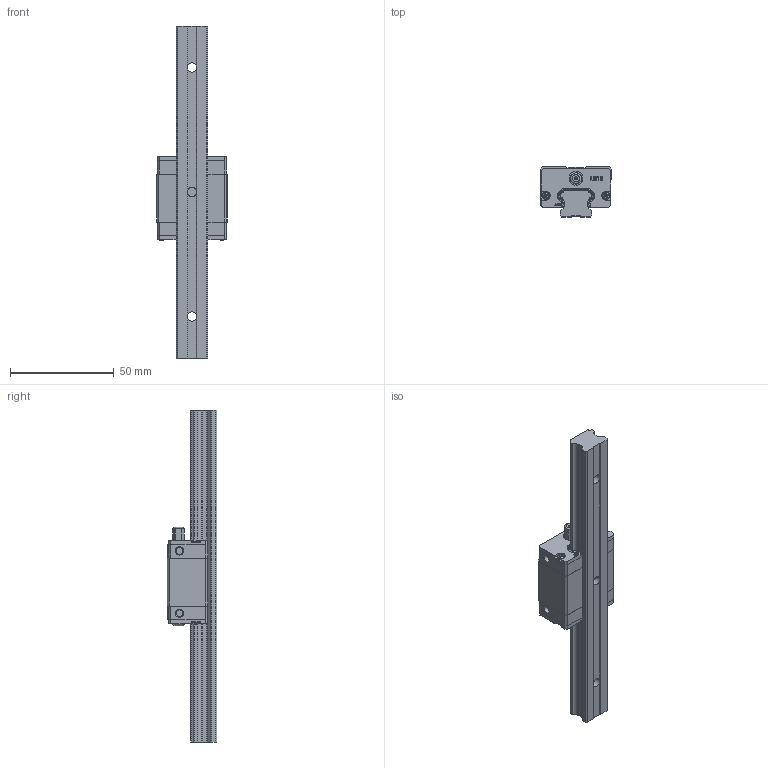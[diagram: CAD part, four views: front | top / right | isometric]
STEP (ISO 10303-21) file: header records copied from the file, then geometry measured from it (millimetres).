
FILE_DESCRIPTION(/* description */ (''),/* implementation_level */ '2;1');
FILE_NAME(/* name */ 'EBH15SA.stp',/* time_stamp */ '2024-09-29T20:37:34+08:00',/* author */ (''),/* organization */ (''),/* preprocessor_version */ 'ST-DEVELOPER v16.7',/* originating_system */ 'SIEMENS PLM Software NX 12.0',/* authorisation */ '');
FILE_SCHEMA (('AUTOMOTIVE_DESIGN { 1 0 10303 214 3 1 1 1 }'));
Products named in the file (3): EBH15SA; EBR15; EBH15SA_stp
Assembly tree (2 placements, depth 2):
  EBH15SA_stp
    EBR15
    EBH15SA
Bounding box: 34 x 24 x 160 mm (x, y, z)
Volume: 46511.1 mm3; surface area: 17359.8 mm2
Topology: 4 solids, 9 shells, 904 faces, 2387 edges, 1554 vertices
Faces by surface type: plane 551, cylinder 171, extrusion 101, cone 43, bspline 32, torus 6
Full cylindrical faces by diameter (mm): 1.5 x2, 2.2 x4, 3.3 x4, 4 x2, 6 x1, 6.7 x2
Entity records: 65224 total; most frequent: CARTESIAN_POINT 37654, ORIENTED_EDGE 4688, DIRECTION 3948, EDGE_CURVE 2344, VERTEX_POINT 1546, VECTOR 1544, LINE 1443, AXIS2_PLACEMENT_3D 1202
